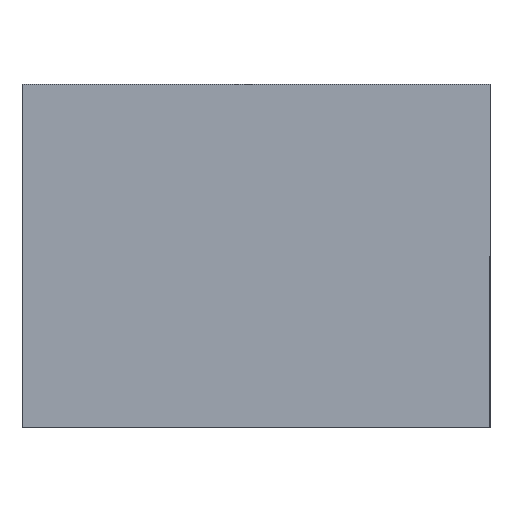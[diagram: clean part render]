
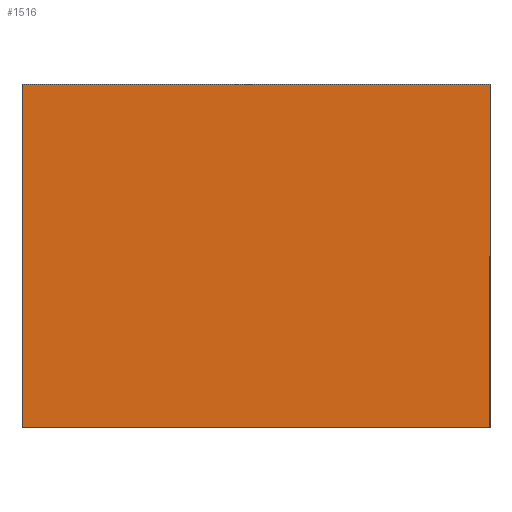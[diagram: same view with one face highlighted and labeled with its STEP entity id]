
A CAD part, front view. The second image highlights one B-rep face of the part: STEP entity #1516.
In plain terms, the highlighted planar face has unit normal (0, -1, 0).
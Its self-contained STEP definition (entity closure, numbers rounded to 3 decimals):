
#140 = DIRECTION ( 'NONE',  ( 0., 1., 0. ) ) ;
#333 = CARTESIAN_POINT ( 'NONE',  ( -37.5, 0., 27.5 ) ) ;
#515 = EDGE_CURVE ( 'NONE', #1890, #2221, #1802, .T. ) ;
#532 = VECTOR ( 'NONE', #961, 1000. ) ;
#534 = CARTESIAN_POINT ( 'NONE',  ( 37.5, 0., -27.5 ) ) ;
#535 = CARTESIAN_POINT ( 'NONE',  ( -37.5, 0., -27.5 ) ) ;
#620 = CARTESIAN_POINT ( 'NONE',  ( -37.5, 0., -27.5 ) ) ;
#656 = EDGE_LOOP ( 'NONE', ( #1499, #727, #2398, #1912 ) ) ;
#727 = ORIENTED_EDGE ( 'NONE', *, *, #515, .F. ) ;
#766 = CARTESIAN_POINT ( 'NONE',  ( 37.5, 0., -27.5 ) ) ;
#917 = FACE_OUTER_BOUND ( 'NONE', #656, .T. ) ;
#961 = DIRECTION ( 'NONE',  ( 0., 0., -1. ) ) ;
#1026 = LINE ( 'NONE', #766, #532 ) ;
#1155 = EDGE_CURVE ( 'NONE', #1531, #2132, #1515, .T. ) ;
#1231 = VECTOR ( 'NONE', #1389, 1000. ) ;
#1275 = CARTESIAN_POINT ( 'NONE',  ( 0., 0., 0. ) ) ;
#1307 = VECTOR ( 'NONE', #1641, 1000. ) ;
#1389 = DIRECTION ( 'NONE',  ( 0., 0., 1. ) ) ;
#1448 = CARTESIAN_POINT ( 'NONE',  ( -37.5, 0., 27.5 ) ) ;
#1457 = AXIS2_PLACEMENT_3D ( 'NONE', #1275, #140, #1476 ) ;
#1476 = DIRECTION ( 'NONE',  ( 0., 0., 1. ) ) ;
#1499 = ORIENTED_EDGE ( 'NONE', *, *, #1969, .F. ) ;
#1515 = LINE ( 'NONE', #535, #2007 ) ;
#1516 = ADVANCED_FACE ( 'NONE', ( #917 ), #2400, .F. ) ;
#1531 = VERTEX_POINT ( 'NONE', #534 ) ;
#1563 = EDGE_CURVE ( 'NONE', #2132, #1890, #1747, .T. ) ;
#1641 = DIRECTION ( 'NONE',  ( 1., 0., 0. ) ) ;
#1747 = LINE ( 'NONE', #2228, #1231 ) ;
#1802 = LINE ( 'NONE', #1448, #1307 ) ;
#1890 = VERTEX_POINT ( 'NONE', #333 ) ;
#1912 = ORIENTED_EDGE ( 'NONE', *, *, #1155, .F. ) ;
#1969 = EDGE_CURVE ( 'NONE', #2221, #1531, #1026, .T. ) ;
#2007 = VECTOR ( 'NONE', #2229, 1000. ) ;
#2132 = VERTEX_POINT ( 'NONE', #620 ) ;
#2147 = CARTESIAN_POINT ( 'NONE',  ( 37.5, 0., 27.5 ) ) ;
#2221 = VERTEX_POINT ( 'NONE', #2147 ) ;
#2228 = CARTESIAN_POINT ( 'NONE',  ( -37.5, 0., -27.5 ) ) ;
#2229 = DIRECTION ( 'NONE',  ( -1., 0., 0. ) ) ;
#2398 = ORIENTED_EDGE ( 'NONE', *, *, #1563, .F. ) ;
#2400 = PLANE ( 'NONE',  #1457 ) ;
